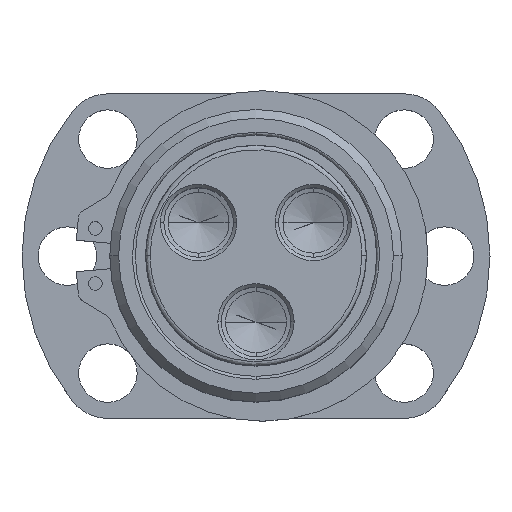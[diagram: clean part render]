
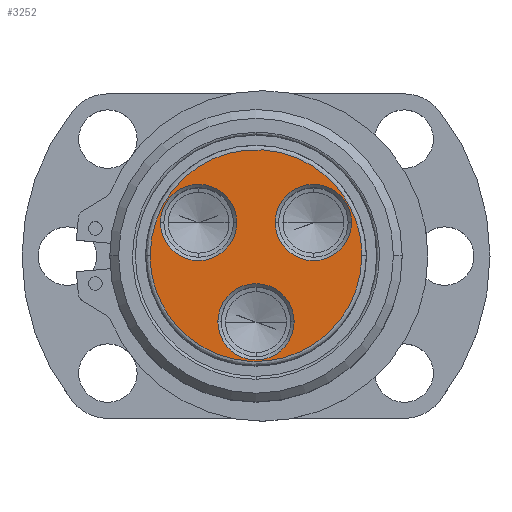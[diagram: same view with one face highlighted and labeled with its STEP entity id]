
A CAD part, top view. The second image highlights one B-rep face of the part: STEP entity #3252.
In plain terms, the highlighted planar face has unit normal (0, 0, 1).
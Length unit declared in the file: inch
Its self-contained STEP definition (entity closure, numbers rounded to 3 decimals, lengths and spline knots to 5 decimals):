
#119 = FACE_BOUND ( 'NONE', #257, .T. ) ;
#257 = EDGE_LOOP ( 'NONE', ( #1324, #2183 ) ) ;
#301 = CARTESIAN_POINT ( 'NONE',  ( 0.959, 0., 0. ) ) ;
#304 = EDGE_CURVE ( 'NONE', #3872, #3254, #4149, .T. ) ;
#445 = CARTESIAN_POINT ( 'NONE',  ( -0.17402, 0.3, 0. ) ) ;
#502 = ORIENTED_EDGE ( 'NONE', *, *, #2929, .T. ) ;
#572 = DIRECTION ( 'NONE',  ( 1., 0., 0. ) ) ;
#597 = DIRECTION ( 'NONE',  ( 0., 0., -1. ) ) ;
#617 = VERTEX_POINT ( 'NONE', #1885 ) ;
#681 = DIRECTION ( 'NONE',  ( 1., 0., 0. ) ) ;
#706 = CARTESIAN_POINT ( 'NONE',  ( -0.51962, 0.3, 0. ) ) ;
#855 = AXIS2_PLACEMENT_3D ( 'NONE', #1452, #1887, #3114 ) ;
#864 = DIRECTION ( 'NONE',  ( 1., 0., 0. ) ) ;
#951 = CARTESIAN_POINT ( 'NONE',  ( 0.959, 1.918, 0. ) ) ;
#999 = AXIS2_PLACEMENT_3D ( 'NONE', #3076, #1038, #681 ) ;
#1038 = DIRECTION ( 'NONE',  ( 0., 0., -1. ) ) ;
#1134 = ORIENTED_EDGE ( 'NONE', *, *, #4094, .T. ) ;
#1148 = VERTEX_POINT ( 'NONE', #301 ) ;
#1161 = EDGE_CURVE ( 'NONE', #617, #1989, #3116, .T. ) ;
#1300 = DIRECTION ( 'NONE',  ( 0., 0., -1. ) ) ;
#1324 = ORIENTED_EDGE ( 'NONE', *, *, #3468, .T. ) ;
#1394 = CARTESIAN_POINT ( 'NONE',  ( 0.51962, 0.3, 0. ) ) ;
#1435 = VERTEX_POINT ( 'NONE', #3818 ) ;
#1452 = CARTESIAN_POINT ( 'NONE',  ( -0.51962, 0.3, 0. ) ) ;
#1458 = AXIS2_PLACEMENT_3D ( 'NONE', #4820, #1300, #3262 ) ;
#1502 = CARTESIAN_POINT ( 'NONE',  ( -0.959, 0., 0. ) ) ;
#1635 = CARTESIAN_POINT ( 'NONE',  ( 0., -0.6, 0. ) ) ;
#1709 = CARTESIAN_POINT ( 'NONE',  ( -0.959, 0., 0. ) ) ;
#1761 = AXIS2_PLACEMENT_3D ( 'NONE', #2746, #3905, #3891 ) ;
#1838 = DIRECTION ( 'NONE',  ( 1., 0., 0. ) ) ;
#1885 = CARTESIAN_POINT ( 'NONE',  ( -0.86522, 0.3, 0. ) ) ;
#1887 = DIRECTION ( 'NONE',  ( 0., 0., -1. ) ) ;
#1897 = CARTESIAN_POINT ( 'NONE',  ( 0.959, -1.918, 0. ) ) ;
#1986 = AXIS2_PLACEMENT_3D ( 'NONE', #1635, #3246, #864 ) ;
#1989 = VERTEX_POINT ( 'NONE', #445 ) ;
#2183 = ORIENTED_EDGE ( 'NONE', *, *, #304, .T. ) ;
#2245 = VERTEX_POINT ( 'NONE', #3747 ) ;
#2266 = CIRCLE ( 'NONE', #855, 0.3456 ) ;
#2292 = EDGE_CURVE ( 'NONE', #1148, #3870, #3918, .T. ) ;
#2435 = EDGE_CURVE ( 'NONE', #2245, #1435, #4602, .T. ) ;
#2617 = ORIENTED_EDGE ( 'NONE', *, *, #4445, .F. ) ;
#2728 = PLANE ( 'NONE',  #1761 ) ;
#2731 = AXIS2_PLACEMENT_3D ( 'NONE', #706, #4646, #1838 ) ;
#2746 = CARTESIAN_POINT ( 'NONE',  ( 0., 0., 0. ) ) ;
#2929 = EDGE_CURVE ( 'NONE', #1989, #617, #2266, .T. ) ;
#3005 = ORIENTED_EDGE ( 'NONE', *, *, #2292, .F. ) ;
#3021 = AXIS2_PLACEMENT_3D ( 'NONE', #1394, #597, #572 ) ;
#3024 = CARTESIAN_POINT ( 'NONE',  ( 0.959, 0., 0. ) ) ;
#3076 = CARTESIAN_POINT ( 'NONE',  ( 0., -0.6, 0. ) ) ;
#3114 = DIRECTION ( 'NONE',  ( 1., 0., 0. ) ) ;
#3116 = CIRCLE ( 'NONE', #2731, 0.3456 ) ;
#3172 = CARTESIAN_POINT ( 'NONE',  ( 0.86522, 0.3, 0. ) ) ;
#3246 = DIRECTION ( 'NONE',  ( 0., 0., -1. ) ) ;
#3252 = ADVANCED_FACE ( 'NONE', ( #3961, #4266, #119, #3473 ), #2728, .T. ) ;
#3254 = VERTEX_POINT ( 'NONE', #3172 ) ;
#3262 = DIRECTION ( 'NONE',  ( 1., 0., 0. ) ) ;
#3339 = CARTESIAN_POINT ( 'NONE',  ( -0.959, 0., 0. ) ) ;
#3438 = CARTESIAN_POINT ( 'NONE',  ( 0.959, 0., 0. ) ) ;
#3468 = EDGE_CURVE ( 'NONE', #3254, #3872, #4491, .T. ) ;
#3473 = FACE_BOUND ( 'NONE', #3821, .T. ) ;
#3568 = EDGE_LOOP ( 'NONE', ( #1134, #3625 ) ) ;
#3625 = ORIENTED_EDGE ( 'NONE', *, *, #2435, .T. ) ;
#3725 = CIRCLE ( 'NONE', #999, 0.3456 ) ;
#3747 = CARTESIAN_POINT ( 'NONE',  ( -0.3456, -0.6, 0. ) ) ;
#3818 = CARTESIAN_POINT ( 'NONE',  ( 0.3456, -0.6, 0. ) ) ;
#3821 = EDGE_LOOP ( 'NONE', ( #502, #4645 ) ) ;
#3870 = VERTEX_POINT ( 'NONE', #1709 ) ;
#3872 = VERTEX_POINT ( 'NONE', #4510 ) ;
#3891 = DIRECTION ( 'NONE',  ( 1., 0., 0. ) ) ;
#3905 = DIRECTION ( 'NONE',  ( 0., 0., 1. ) ) ;
#3918 =( BOUNDED_CURVE ( )  B_SPLINE_CURVE ( 3, ( #3024, #1897, #4609, #1502 ),
 .UNSPECIFIED., .F., .F. ) 
 B_SPLINE_CURVE_WITH_KNOTS ( ( 4, 4 ),
 ( 0., 1. ),
 .UNSPECIFIED. ) 
 CURVE ( )  GEOMETRIC_REPRESENTATION_ITEM ( )  RATIONAL_B_SPLINE_CURVE ( ( 1., 0.333, 0.333, 1. ) ) 
 REPRESENTATION_ITEM ( '' )  );
#3961 = FACE_OUTER_BOUND ( 'NONE', #4474, .T. ) ;
#4080 = CARTESIAN_POINT ( 'NONE',  ( -0.959, 1.918, 0. ) ) ;
#4094 = EDGE_CURVE ( 'NONE', #1435, #2245, #3725, .T. ) ;
#4149 = CIRCLE ( 'NONE', #1458, 0.3456 ) ;
#4266 = FACE_BOUND ( 'NONE', #3568, .T. ) ;
#4445 = EDGE_CURVE ( 'NONE', #3870, #1148, #4582, .T. ) ;
#4474 = EDGE_LOOP ( 'NONE', ( #2617, #3005 ) ) ;
#4491 = CIRCLE ( 'NONE', #3021, 0.3456 ) ;
#4510 = CARTESIAN_POINT ( 'NONE',  ( 0.17402, 0.3, 0. ) ) ;
#4582 =( BOUNDED_CURVE ( )  B_SPLINE_CURVE ( 3, ( #3339, #4080, #951, #3438 ),
 .UNSPECIFIED., .F., .T. ) 
 B_SPLINE_CURVE_WITH_KNOTS ( ( 4, 4 ),
 ( 0., 1. ),
 .UNSPECIFIED. ) 
 CURVE ( )  GEOMETRIC_REPRESENTATION_ITEM ( )  RATIONAL_B_SPLINE_CURVE ( ( 1., 0.333, 0.333, 1. ) ) 
 REPRESENTATION_ITEM ( '' )  );
#4602 = CIRCLE ( 'NONE', #1986, 0.3456 ) ;
#4609 = CARTESIAN_POINT ( 'NONE',  ( -0.959, -1.918, 0. ) ) ;
#4645 = ORIENTED_EDGE ( 'NONE', *, *, #1161, .T. ) ;
#4646 = DIRECTION ( 'NONE',  ( 0., 0., -1. ) ) ;
#4820 = CARTESIAN_POINT ( 'NONE',  ( 0.51962, 0.3, 0. ) ) ;
